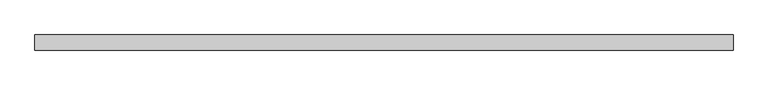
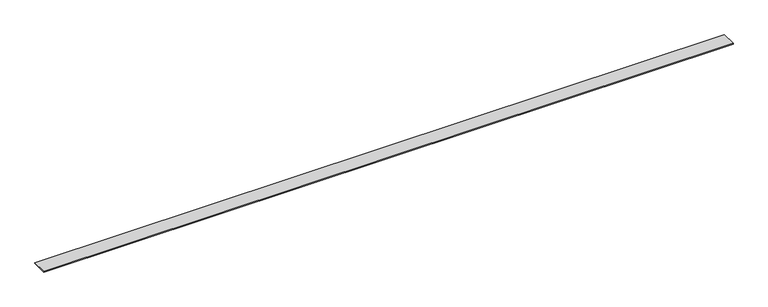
"""IFC4 building model written with IfcOpenShell, lengths in millimetres: furniture geometry, Geiger_GeigerOneCasegoods_WallTopTrimSingleSidedWall : 120Wx2.625Dx0.125H."""

from ifc_helpers import new_model, si_unit, origin, origin_with_axes, place, context, project, spatial, polyline, outline, extrude, source, transform, mapped, element, save


def furniture_7d34e3fb(model_context):
    return source(origin(), model_context, "Body", "SweptSolid", [
        extrude(outline(polyline([(3048.0, 33.0), (3048.0, -33.0), (0.0, -33.0), (0.0, 33.0), (3048.0, 33.0)])), origin_with_axes(), (0.0, 0.0, 1.0), 3.2004),
    ])


if __name__ == "__main__":
    model = new_model("IFC4")
    model_context = context("Model", 3, world=origin())
    ifc_project = project(units=[si_unit("LENGTHUNIT", "METRE", prefix="MILLI")], contexts=[model_context])
    site = spatial("IfcSite", under=ifc_project)
    building = spatial("IfcBuilding", under=site)
    placement = place(None, origin())
    furniture_shape = furniture_7d34e3fb(model_context)
    element("IfcFurniture", 1, ObjectType="Geiger_GeigerOneCasegoods_WallTopTrimSingleSidedWall : 120Wx2.625Dx0.125H", at=placement, inside=building, context=model_context, shape_type="MappedRepresentation", body=[
        mapped(furniture_shape, transform((0.0, 0.0, 0.0), x_axis=(1.0, 0.0, 0.0), y_axis=(0.0, 1.0, 0.0), z_axis=(0.0, 0.0, 1.0))),
    ])
    save(model, "model.ifc")
